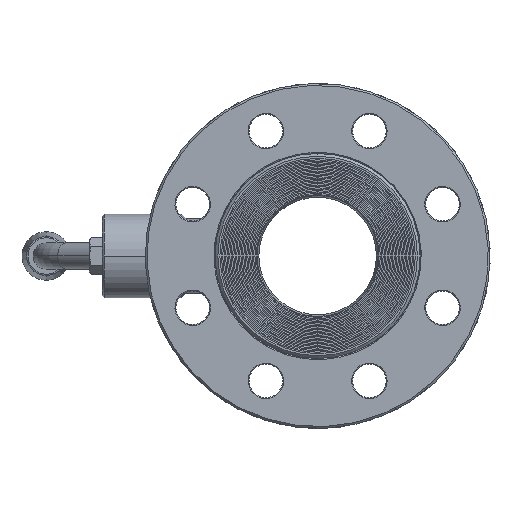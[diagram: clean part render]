
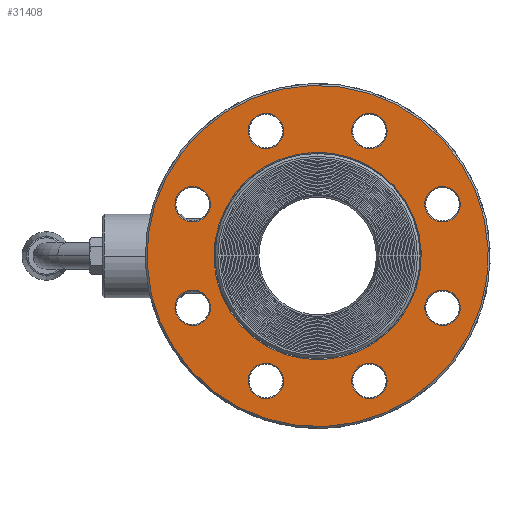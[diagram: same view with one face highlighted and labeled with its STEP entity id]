
A CAD part, left-side view. The second image highlights one B-rep face of the part: STEP entity #31408.
In plain terms, the highlighted planar face has unit normal (-1, 0, 0).
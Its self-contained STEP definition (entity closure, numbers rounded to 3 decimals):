
#3780=CARTESIAN_POINT('',(-83.,0.,0.));
#3781=DIRECTION('',(-1.,0.,0.));
#3782=DIRECTION('',(0.,0.924,-0.383));
#3783=AXIS2_PLACEMENT_3D('',#3780,#3781,#3782);
#3785=CARTESIAN_POINT('',(-83.,0.,0.));
#3786=DIRECTION('',(-1.,0.,0.));
#3787=DIRECTION('',(0.,-0.924,0.383));
#3788=AXIS2_PLACEMENT_3D('',#3785,#3786,#3787);
#3790=CARTESIAN_POINT('',(-83.,0.,0.));
#3791=DIRECTION('',(-1.,0.,0.));
#3792=DIRECTION('',(0.,0.924,-0.383));
#3793=AXIS2_PLACEMENT_3D('',#3790,#3791,#3792);
#3795=CARTESIAN_POINT('',(-83.,0.,0.));
#3796=DIRECTION('',(-1.,0.,0.));
#3797=DIRECTION('',(0.,-0.924,0.383));
#3798=AXIS2_PLACEMENT_3D('',#3795,#3796,#3797);
#3800=CARTESIAN_POINT('',(-83.,-66.981,-27.745));
#3801=DIRECTION('',(1.,0.,0.));
#3802=DIRECTION('',(0.,-0.924,0.383));
#3803=AXIS2_PLACEMENT_3D('',#3800,#3801,#3802);
#3805=CARTESIAN_POINT('',(-83.,-66.981,-27.745));
#3806=DIRECTION('',(1.,0.,0.));
#3807=DIRECTION('',(0.,0.924,-0.383));
#3808=AXIS2_PLACEMENT_3D('',#3805,#3806,#3807);
#3810=CARTESIAN_POINT('',(-83.,-66.981,27.745));
#3811=DIRECTION('',(1.,0.,0.));
#3812=DIRECTION('',(0.,-0.924,0.383));
#3813=AXIS2_PLACEMENT_3D('',#3810,#3811,#3812);
#3815=CARTESIAN_POINT('',(-83.,-66.981,27.745));
#3816=DIRECTION('',(1.,0.,0.));
#3817=DIRECTION('',(0.,0.924,-0.383));
#3818=AXIS2_PLACEMENT_3D('',#3815,#3816,#3817);
#3820=CARTESIAN_POINT('',(-83.,-27.745,66.981));
#3821=DIRECTION('',(1.,0.,0.));
#3822=DIRECTION('',(0.,-0.924,0.383));
#3823=AXIS2_PLACEMENT_3D('',#3820,#3821,#3822);
#3825=CARTESIAN_POINT('',(-83.,-27.745,66.981));
#3826=DIRECTION('',(1.,0.,0.));
#3827=DIRECTION('',(0.,0.924,-0.383));
#3828=AXIS2_PLACEMENT_3D('',#3825,#3826,#3827);
#3830=CARTESIAN_POINT('',(-83.,27.745,66.981));
#3831=DIRECTION('',(1.,0.,0.));
#3832=DIRECTION('',(0.,-0.924,0.383));
#3833=AXIS2_PLACEMENT_3D('',#3830,#3831,#3832);
#3835=CARTESIAN_POINT('',(-83.,27.745,66.981));
#3836=DIRECTION('',(1.,0.,0.));
#3837=DIRECTION('',(0.,0.924,-0.383));
#3838=AXIS2_PLACEMENT_3D('',#3835,#3836,#3837);
#3840=CARTESIAN_POINT('',(-83.,66.981,27.745));
#3841=DIRECTION('',(1.,0.,0.));
#3842=DIRECTION('',(0.,-0.924,0.383));
#3843=AXIS2_PLACEMENT_3D('',#3840,#3841,#3842);
#3845=CARTESIAN_POINT('',(-83.,66.981,27.745));
#3846=DIRECTION('',(1.,0.,0.));
#3847=DIRECTION('',(0.,0.924,-0.383));
#3848=AXIS2_PLACEMENT_3D('',#3845,#3846,#3847);
#3850=CARTESIAN_POINT('',(-83.,66.981,-27.745));
#3851=DIRECTION('',(1.,0.,0.));
#3852=DIRECTION('',(0.,-0.924,0.383));
#3853=AXIS2_PLACEMENT_3D('',#3850,#3851,#3852);
#3855=CARTESIAN_POINT('',(-83.,66.981,-27.745));
#3856=DIRECTION('',(1.,0.,0.));
#3857=DIRECTION('',(0.,0.924,-0.383));
#3858=AXIS2_PLACEMENT_3D('',#3855,#3856,#3857);
#3860=CARTESIAN_POINT('',(-83.,27.745,-66.981));
#3861=DIRECTION('',(1.,0.,0.));
#3862=DIRECTION('',(0.,-0.924,0.383));
#3863=AXIS2_PLACEMENT_3D('',#3860,#3861,#3862);
#3865=CARTESIAN_POINT('',(-83.,27.745,-66.981));
#3866=DIRECTION('',(1.,0.,0.));
#3867=DIRECTION('',(0.,0.924,-0.383));
#3868=AXIS2_PLACEMENT_3D('',#3865,#3866,#3867);
#3870=CARTESIAN_POINT('',(-83.,-27.745,-66.981));
#3871=DIRECTION('',(1.,0.,0.));
#3872=DIRECTION('',(0.,-0.924,0.383));
#3873=AXIS2_PLACEMENT_3D('',#3870,#3871,#3872);
#3875=CARTESIAN_POINT('',(-83.,-27.745,-66.981));
#3876=DIRECTION('',(1.,0.,0.));
#3877=DIRECTION('',(0.,0.924,-0.383));
#3878=AXIS2_PLACEMENT_3D('',#3875,#3876,#3877);
#26918=CARTESIAN_POINT('',(-83.,51.368,-21.277));
#26919=CARTESIAN_POINT('',(-83.,-51.368,21.277));
#26920=VERTEX_POINT('',#26918);
#26921=VERTEX_POINT('',#26919);
#26938=CARTESIAN_POINT('',(-83.,84.535,-35.016));
#26939=CARTESIAN_POINT('',(-83.,-84.535,35.016));
#26940=VERTEX_POINT('',#26938);
#26941=VERTEX_POINT('',#26939);
#27010=CARTESIAN_POINT('',(-83.,-75.758,-24.109));
#27011=CARTESIAN_POINT('',(-83.,-58.205,-31.38));
#27012=VERTEX_POINT('',#27010);
#27013=VERTEX_POINT('',#27011);
#27018=CARTESIAN_POINT('',(-83.,-75.758,31.38));
#27019=CARTESIAN_POINT('',(-83.,-58.205,24.109));
#27020=VERTEX_POINT('',#27018);
#27021=VERTEX_POINT('',#27019);
#27026=CARTESIAN_POINT('',(-83.,-36.521,70.617));
#27027=CARTESIAN_POINT('',(-83.,-18.968,63.346));
#27028=VERTEX_POINT('',#27026);
#27029=VERTEX_POINT('',#27027);
#27034=CARTESIAN_POINT('',(-83.,18.968,70.617));
#27035=CARTESIAN_POINT('',(-83.,36.521,63.346));
#27036=VERTEX_POINT('',#27034);
#27037=VERTEX_POINT('',#27035);
#27042=CARTESIAN_POINT('',(-83.,58.205,31.38));
#27043=CARTESIAN_POINT('',(-83.,75.758,24.109));
#27044=VERTEX_POINT('',#27042);
#27045=VERTEX_POINT('',#27043);
#27050=CARTESIAN_POINT('',(-83.,58.205,-24.109));
#27051=CARTESIAN_POINT('',(-83.,75.758,-31.38));
#27052=VERTEX_POINT('',#27050);
#27053=VERTEX_POINT('',#27051);
#27058=CARTESIAN_POINT('',(-83.,18.968,-63.346));
#27059=CARTESIAN_POINT('',(-83.,36.521,-70.617));
#27060=VERTEX_POINT('',#27058);
#27061=VERTEX_POINT('',#27059);
#27066=CARTESIAN_POINT('',(-83.,-36.521,-63.346));
#27067=CARTESIAN_POINT('',(-83.,-18.968,-70.617));
#27068=VERTEX_POINT('',#27066);
#27069=VERTEX_POINT('',#27067);
#31345=CARTESIAN_POINT('',(-83.,0.,0.));
#31346=DIRECTION('',(-1.,0.,0.));
#31347=DIRECTION('',(0.,-0.924,0.383));
#31348=AXIS2_PLACEMENT_3D('',#31345,#31346,#31347);
#31349=PLANE('',#31348);
#31351=ORIENTED_EDGE('',*,*,#31350,.F.);
#31353=ORIENTED_EDGE('',*,*,#31352,.F.);
#31354=EDGE_LOOP('',(#31351,#31353));
#31355=FACE_OUTER_BOUND('',#31354,.F.);
#31356=ORIENTED_EDGE('',*,*,#31339,.T.);
#31357=ORIENTED_EDGE('',*,*,#31296,.T.);
#31358=EDGE_LOOP('',(#31356,#31357));
#31359=FACE_BOUND('',#31358,.F.);
#31361=ORIENTED_EDGE('',*,*,#31360,.F.);
#31363=ORIENTED_EDGE('',*,*,#31362,.F.);
#31364=EDGE_LOOP('',(#31361,#31363));
#31365=FACE_BOUND('',#31364,.F.);
#31367=ORIENTED_EDGE('',*,*,#31366,.F.);
#31369=ORIENTED_EDGE('',*,*,#31368,.F.);
#31370=EDGE_LOOP('',(#31367,#31369));
#31371=FACE_BOUND('',#31370,.F.);
#31373=ORIENTED_EDGE('',*,*,#31372,.F.);
#31375=ORIENTED_EDGE('',*,*,#31374,.F.);
#31376=EDGE_LOOP('',(#31373,#31375));
#31377=FACE_BOUND('',#31376,.F.);
#31379=ORIENTED_EDGE('',*,*,#31378,.F.);
#31381=ORIENTED_EDGE('',*,*,#31380,.F.);
#31382=EDGE_LOOP('',(#31379,#31381));
#31383=FACE_BOUND('',#31382,.F.);
#31385=ORIENTED_EDGE('',*,*,#31384,.F.);
#31387=ORIENTED_EDGE('',*,*,#31386,.F.);
#31388=EDGE_LOOP('',(#31385,#31387));
#31389=FACE_BOUND('',#31388,.F.);
#31391=ORIENTED_EDGE('',*,*,#31390,.F.);
#31393=ORIENTED_EDGE('',*,*,#31392,.F.);
#31394=EDGE_LOOP('',(#31391,#31393));
#31395=FACE_BOUND('',#31394,.F.);
#31397=ORIENTED_EDGE('',*,*,#31396,.F.);
#31399=ORIENTED_EDGE('',*,*,#31398,.F.);
#31400=EDGE_LOOP('',(#31397,#31399));
#31401=FACE_BOUND('',#31400,.F.);
#31403=ORIENTED_EDGE('',*,*,#31402,.F.);
#31405=ORIENTED_EDGE('',*,*,#31404,.F.);
#31406=EDGE_LOOP('',(#31403,#31405));
#31407=FACE_BOUND('',#31406,.F.);
#31408=ADVANCED_FACE('',(#31355,#31359,#31365,#31371,#31377,#31383,#31389,
#31395,#31401,#31407),#31349,.T.);
#3784=CIRCLE('',#3783,91.5);
#3789=CIRCLE('',#3788,91.5);
#3794=CIRCLE('',#3793,55.6);
#3799=CIRCLE('',#3798,55.6);
#3804=CIRCLE('',#3803,9.5);
#3809=CIRCLE('',#3808,9.5);
#3814=CIRCLE('',#3813,9.5);
#3819=CIRCLE('',#3818,9.5);
#3824=CIRCLE('',#3823,9.5);
#3829=CIRCLE('',#3828,9.5);
#3834=CIRCLE('',#3833,9.5);
#3839=CIRCLE('',#3838,9.5);
#3844=CIRCLE('',#3843,9.5);
#3849=CIRCLE('',#3848,9.5);
#3854=CIRCLE('',#3853,9.5);
#3859=CIRCLE('',#3858,9.5);
#3864=CIRCLE('',#3863,9.5);
#3869=CIRCLE('',#3868,9.5);
#3874=CIRCLE('',#3873,9.5);
#3879=CIRCLE('',#3878,9.5);
#31296=EDGE_CURVE('',#26921,#26920,#3799,.T.);
#31339=EDGE_CURVE('',#26920,#26921,#3794,.T.);
#31350=EDGE_CURVE('',#26940,#26941,#3784,.T.);
#31352=EDGE_CURVE('',#26941,#26940,#3789,.T.);
#31360=EDGE_CURVE('',#27012,#27013,#3804,.T.);
#31362=EDGE_CURVE('',#27013,#27012,#3809,.T.);
#31366=EDGE_CURVE('',#27020,#27021,#3814,.T.);
#31368=EDGE_CURVE('',#27021,#27020,#3819,.T.);
#31372=EDGE_CURVE('',#27028,#27029,#3824,.T.);
#31374=EDGE_CURVE('',#27029,#27028,#3829,.T.);
#31378=EDGE_CURVE('',#27036,#27037,#3834,.T.);
#31380=EDGE_CURVE('',#27037,#27036,#3839,.T.);
#31384=EDGE_CURVE('',#27044,#27045,#3844,.T.);
#31386=EDGE_CURVE('',#27045,#27044,#3849,.T.);
#31390=EDGE_CURVE('',#27052,#27053,#3854,.T.);
#31392=EDGE_CURVE('',#27053,#27052,#3859,.T.);
#31396=EDGE_CURVE('',#27060,#27061,#3864,.T.);
#31398=EDGE_CURVE('',#27061,#27060,#3869,.T.);
#31402=EDGE_CURVE('',#27068,#27069,#3874,.T.);
#31404=EDGE_CURVE('',#27069,#27068,#3879,.T.);
